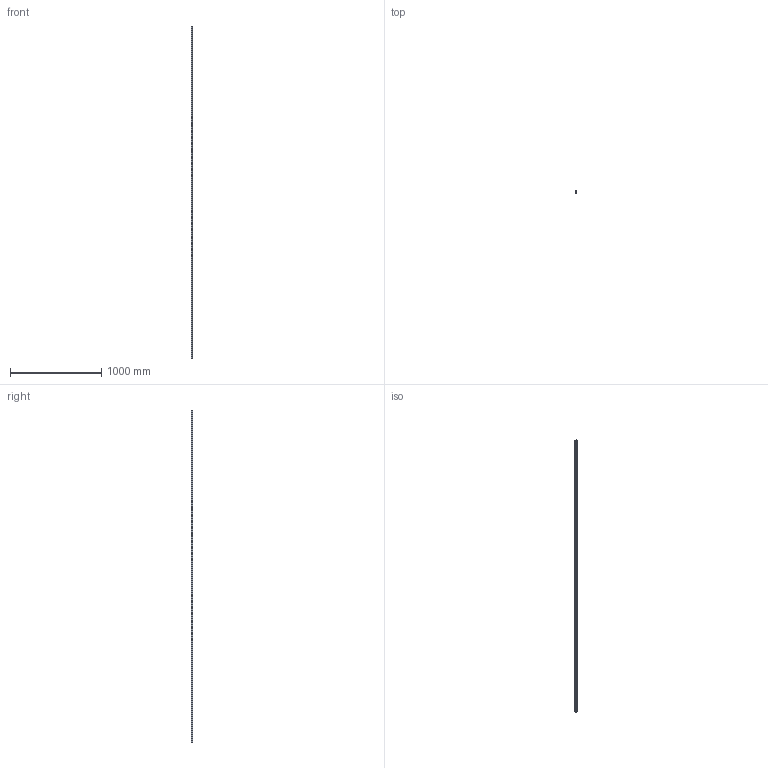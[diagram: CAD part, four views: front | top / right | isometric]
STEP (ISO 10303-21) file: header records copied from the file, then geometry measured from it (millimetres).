
FILE_DESCRIPTION (( 'STEP AP203' ), '1' );
FILE_NAME ('L1016.BL20-3640.step', '2019-06-12T11:57:56', ( '' ), ( '' ), 'SwSTEP 2.0', 'SolidWorks 2017', '' );
FILE_SCHEMA (( 'CONFIG_CONTROL_DESIGN' ));
Length unit declared in the file: millimetre
Products named in the file (1): L1016.BL20-3640
Bounding box: 20 x 16.3 x 3640 mm (x, y, z)
Volume: 1011881.5 mm3; surface area: 292622.8 mm2
Topology: 1 solids, 1 shells, 331 faces, 804 edges, 536 vertices
Faces by surface type: cylinder 248, plane 83
Entity records: 10295 total; most frequent: DIRECTION 1964, CARTESIAN_POINT 1672, ORIENTED_EDGE 1608, AXIS2_PLACEMENT_3D 828, EDGE_CURVE 804, VERTEX_POINT 536, EDGE_LOOP 514, CIRCLE 496
